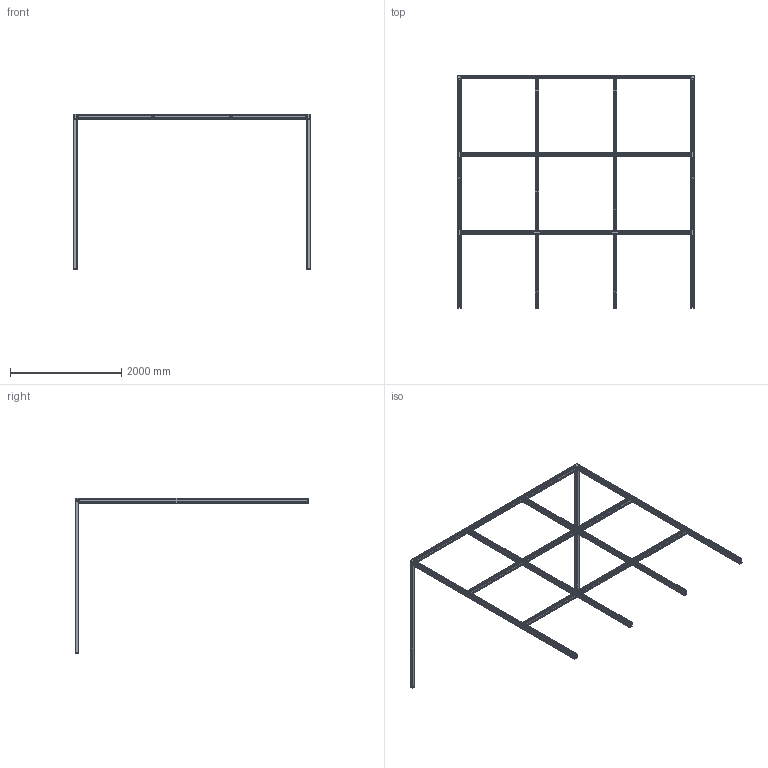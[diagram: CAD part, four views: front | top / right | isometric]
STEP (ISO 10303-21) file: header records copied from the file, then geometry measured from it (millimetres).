
FILE_DESCRIPTION (( 'STEP AP214' ), '1' );
FILE_NAME ('1001981.STEP', '2025-09-15T13:24:49', ( '' ), ( '' ), 'SwSTEP 2.0', 'SolidWorks 2025', '' );
FILE_SCHEMA (( 'AUTOMOTIVE_DESIGN' ));
Length unit declared in the file: millimetre
Products named in the file (1): 1001981
Bounding box: 4262.4 x 4207.25 x 2802 mm (x, y, z)
Volume: 77199285.9 mm3; surface area: 20540116.6 mm2
Topology: 105 solids, 105 shells, 6234 faces, 17430 edges, 11502 vertices
Faces by surface type: plane 4055, cylinder 1883, bspline 204, cone 52, sphere 32, torus 8
Entity records: 212459 total; most frequent: CARTESIAN_POINT 50511, ORIENTED_EDGE 34860, DIRECTION 32002, EDGE_CURVE 17430, VECTOR 13088, LINE 13088, VERTEX_POINT 11502, AXIS2_PLACEMENT_3D 9457
